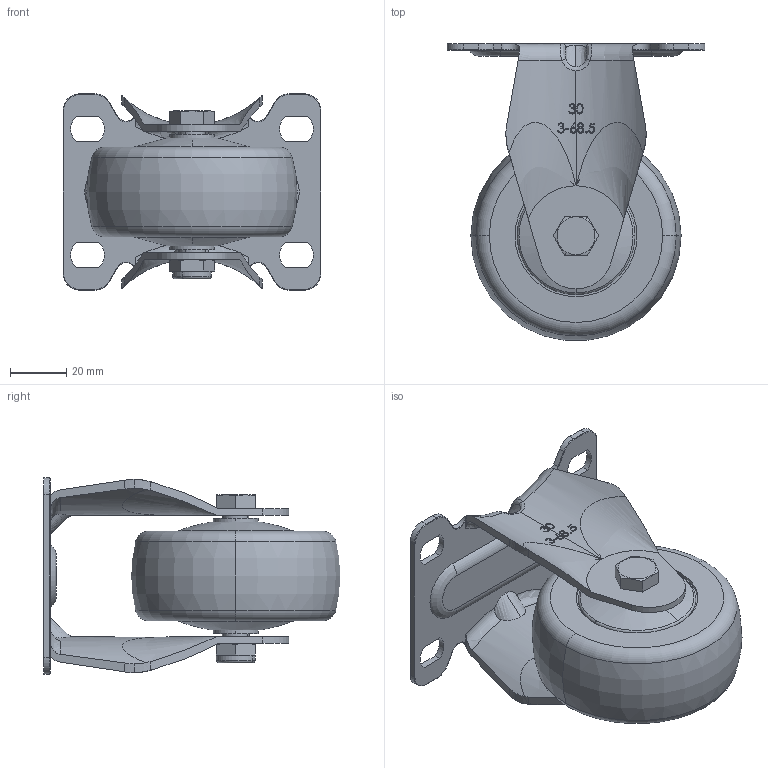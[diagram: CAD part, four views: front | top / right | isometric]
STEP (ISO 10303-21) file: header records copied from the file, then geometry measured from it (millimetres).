
FILE_DESCRIPTION (( 'STEP AP203' ), '1' );
FILE_NAME ('4113003001004-7.STEP', '2025-01-08T06:08:07', ( '' ), ( '' ), 'SwSTEP 2.0', 'SolidWorks 2019', '' );
FILE_SCHEMA (( 'CONFIG_CONTROL_DESIGN' ));
Length unit declared in the file: millimetre
Products named in the file (5): 輪; 4202095401 4''''.5''''儀器.高級活動用車心 20190430; 4502090003 尼龍螺帽 20190422; 4113003001004-7; 213001030002-30系列固定架-電鍍_長孔
Assembly tree (4 placements, depth 2):
  4113003001004-7
    213001030002-30系列固定架-電鍍_長孔
    輪
    4202095401 4''''.5''''儀器.高級活動用車心 20190430
    4502090003 尼龍螺帽 20190422
Bounding box: 92 x 105.79 x 70 mm (x, y, z)
Volume: 165251.1 mm3; surface area: 48854 mm2
Topology: 4 solids, 6 shells, 295 faces, 820 edges, 549 vertices
Faces by surface type: cylinder 112, plane 87, torus 38, bspline 32, cone 18, sphere 8
Entity records: 16080 total; most frequent: CARTESIAN_POINT 8279, ORIENTED_EDGE 1624, DIRECTION 1421, EDGE_CURVE 812, AXIS2_PLACEMENT_3D 580, VERTEX_POINT 549, EDGE_LOOP 335, CIRCLE 310
